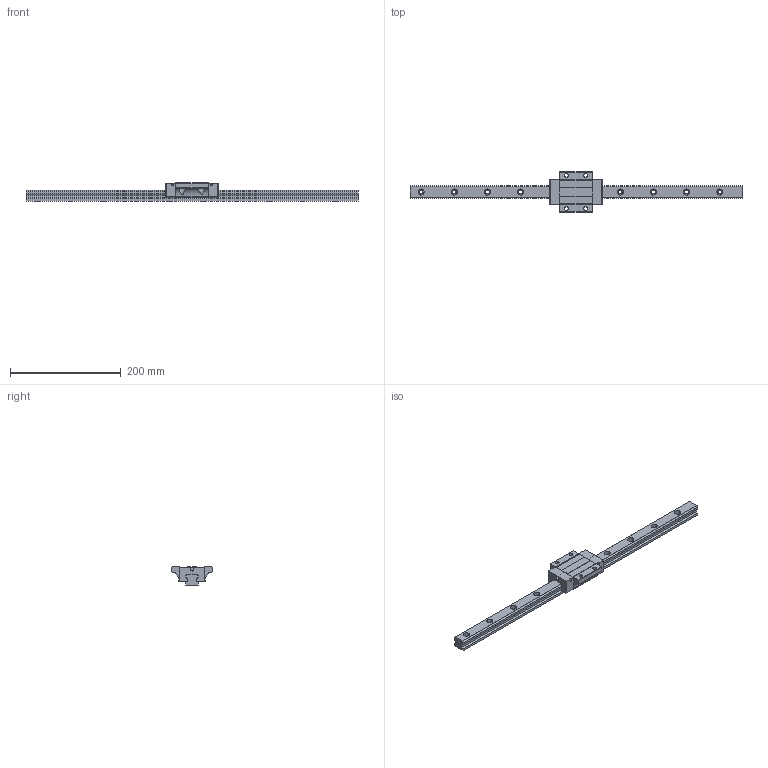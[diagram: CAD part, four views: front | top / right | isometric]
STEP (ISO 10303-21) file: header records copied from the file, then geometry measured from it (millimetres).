
FILE_DESCRIPTION (( 'STEP AP203' ), '1' );
FILE_NAME ('TRS25FN-SZ.STEP', '2024-07-11T01:02:39', ( '' ), ( '' ), 'SwSTEP 2.0', 'SolidWorks 2022', '' );
FILE_SCHEMA (( 'CONFIG_CONTROL_DESIGN' ));
Length unit declared in the file: millimetre
Products named in the file (1): TRS25FN-SZ
Bounding box: 600 x 73 x 33 mm (x, y, z)
Volume: 338785.3 mm3; surface area: 82360.2 mm2
Topology: 2 solids, 2 shells, 230 faces, 614 edges, 400 vertices
Faces by surface type: cylinder 126, plane 100, sphere 4
Entity records: 7971 total; most frequent: CARTESIAN_POINT 1955, DIRECTION 1274, ORIENTED_EDGE 1220, EDGE_CURVE 610, AXIS2_PLACEMENT_3D 459, VERTEX_POINT 400, LINE 356, VECTOR 356
